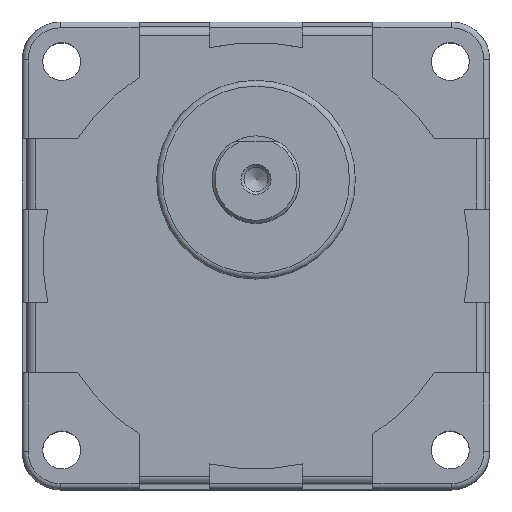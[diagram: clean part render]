
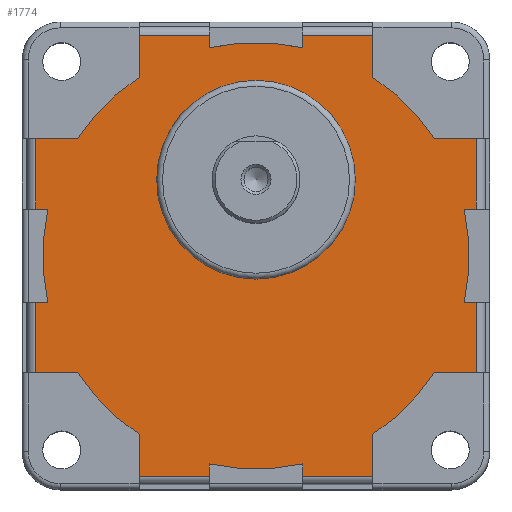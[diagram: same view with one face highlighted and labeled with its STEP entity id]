
A CAD part, top view. The second image highlights one B-rep face of the part: STEP entity #1774.
In plain terms, the highlighted planar face has unit normal (0, 0, 1).
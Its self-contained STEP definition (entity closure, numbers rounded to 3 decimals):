
#29=LINE('',#2698,#196);
#33=LINE('',#2710,#200);
#35=LINE('',#2716,#202);
#36=LINE('',#2720,#203);
#37=LINE('',#2722,#204);
#38=LINE('',#2724,#205);
#39=LINE('',#2728,#206);
#40=LINE('',#2730,#207);
#41=LINE('',#2732,#208);
#42=LINE('',#2736,#209);
#43=LINE('',#2738,#210);
#44=LINE('',#2740,#211);
#45=LINE('',#2744,#212);
#46=LINE('',#2746,#213);
#47=LINE('',#2748,#214);
#48=LINE('',#2752,#215);
#49=LINE('',#2754,#216);
#50=LINE('',#2756,#217);
#51=LINE('',#2760,#218);
#52=LINE('',#2762,#219);
#53=LINE('',#2764,#220);
#54=LINE('',#2767,#221);
#55=LINE('',#2769,#222);
#56=LINE('',#2772,#223);
#196=VECTOR('',#2150,12.);
#200=VECTOR('',#2160,12.);
#202=VECTOR('',#2166,7.167);
#203=VECTOR('',#2169,7.167);
#204=VECTOR('',#2170,12.);
#205=VECTOR('',#2171,2.088);
#206=VECTOR('',#2174,2.088);
#207=VECTOR('',#2175,12.);
#208=VECTOR('',#2176,7.167);
#209=VECTOR('',#2179,7.167);
#210=VECTOR('',#2180,12.);
#211=VECTOR('',#2181,2.088);
#212=VECTOR('',#2184,2.088);
#213=VECTOR('',#2185,12.);
#214=VECTOR('',#2186,7.167);
#215=VECTOR('',#2189,7.167);
#216=VECTOR('',#2190,12.);
#217=VECTOR('',#2191,2.088);
#218=VECTOR('',#2194,2.088);
#219=VECTOR('',#2195,12.);
#220=VECTOR('',#2196,7.167);
#221=VECTOR('',#2199,7.167);
#222=VECTOR('',#2200,2.088);
#223=VECTOR('',#2203,2.088);
#364=PLANE('',#1906);
#465=FACE_BOUND('',#615,.T.);
#495=FACE_OUTER_BOUND('',#614,.T.);
#614=EDGE_LOOP('',(#1297,#1298,#1299,#1300,#1301,#1302,#1303,#1304,#1305,
#1306,#1307,#1308,#1309,#1310,#1311,#1312,#1313,#1314,#1315,#1316,#1317,
#1318,#1319,#1320,#1321,#1322,#1323,#1324,#1325,#1326,#1327,#1328));
#615=EDGE_LOOP('',(#1329));
#727=CIRCLE('',#1897,17.);
#732=CIRCLE('',#1907,36.5);
#733=CIRCLE('',#1908,36.5);
#734=CIRCLE('',#1909,36.5);
#735=CIRCLE('',#1910,36.5);
#736=CIRCLE('',#1911,36.5);
#737=CIRCLE('',#1912,36.5);
#738=CIRCLE('',#1913,36.5);
#739=CIRCLE('',#1914,36.5);
#824=VERTEX_POINT('',#2687);
#825=VERTEX_POINT('',#2691);
#828=VERTEX_POINT('',#2696);
#832=VERTEX_POINT('',#2707);
#833=VERTEX_POINT('',#2709);
#835=VERTEX_POINT('',#2715);
#836=VERTEX_POINT('',#2717);
#837=VERTEX_POINT('',#2719);
#838=VERTEX_POINT('',#2721);
#839=VERTEX_POINT('',#2723);
#840=VERTEX_POINT('',#2725);
#841=VERTEX_POINT('',#2727);
#842=VERTEX_POINT('',#2729);
#843=VERTEX_POINT('',#2731);
#844=VERTEX_POINT('',#2733);
#845=VERTEX_POINT('',#2735);
#846=VERTEX_POINT('',#2737);
#847=VERTEX_POINT('',#2739);
#848=VERTEX_POINT('',#2741);
#849=VERTEX_POINT('',#2743);
#850=VERTEX_POINT('',#2745);
#851=VERTEX_POINT('',#2747);
#852=VERTEX_POINT('',#2749);
#853=VERTEX_POINT('',#2751);
#854=VERTEX_POINT('',#2753);
#855=VERTEX_POINT('',#2755);
#856=VERTEX_POINT('',#2757);
#857=VERTEX_POINT('',#2759);
#858=VERTEX_POINT('',#2761);
#859=VERTEX_POINT('',#2763);
#860=VERTEX_POINT('',#2765);
#861=VERTEX_POINT('',#2768);
#862=VERTEX_POINT('',#2770);
#1004=EDGE_CURVE('',#824,#824,#727,.T.);
#1008=EDGE_CURVE('',#828,#825,#29,.T.);
#1013=EDGE_CURVE('',#832,#833,#33,.T.);
#1016=EDGE_CURVE('',#828,#835,#35,.T.);
#1017=EDGE_CURVE('',#836,#835,#732,.T.);
#1018=EDGE_CURVE('',#837,#836,#36,.T.);
#1019=EDGE_CURVE('',#838,#837,#37,.T.);
#1020=EDGE_CURVE('',#839,#838,#38,.T.);
#1021=EDGE_CURVE('',#840,#839,#733,.T.);
#1022=EDGE_CURVE('',#840,#841,#39,.T.);
#1023=EDGE_CURVE('',#842,#841,#40,.T.);
#1024=EDGE_CURVE('',#842,#843,#41,.T.);
#1025=EDGE_CURVE('',#844,#843,#734,.T.);
#1026=EDGE_CURVE('',#845,#844,#42,.T.);
#1027=EDGE_CURVE('',#846,#845,#43,.T.);
#1028=EDGE_CURVE('',#847,#846,#44,.T.);
#1029=EDGE_CURVE('',#848,#847,#735,.T.);
#1030=EDGE_CURVE('',#848,#849,#45,.T.);
#1031=EDGE_CURVE('',#850,#849,#46,.T.);
#1032=EDGE_CURVE('',#850,#851,#47,.T.);
#1033=EDGE_CURVE('',#852,#851,#736,.T.);
#1034=EDGE_CURVE('',#853,#852,#48,.T.);
#1035=EDGE_CURVE('',#854,#853,#49,.T.);
#1036=EDGE_CURVE('',#855,#854,#50,.T.);
#1037=EDGE_CURVE('',#856,#855,#737,.T.);
#1038=EDGE_CURVE('',#856,#857,#51,.T.);
#1039=EDGE_CURVE('',#858,#857,#52,.T.);
#1040=EDGE_CURVE('',#858,#859,#53,.T.);
#1041=EDGE_CURVE('',#860,#859,#738,.T.);
#1042=EDGE_CURVE('',#833,#860,#54,.T.);
#1043=EDGE_CURVE('',#861,#832,#55,.T.);
#1044=EDGE_CURVE('',#862,#861,#739,.T.);
#1045=EDGE_CURVE('',#862,#825,#56,.T.);
#1297=ORIENTED_EDGE('',*,*,#1008,.F.);
#1298=ORIENTED_EDGE('',*,*,#1016,.T.);
#1299=ORIENTED_EDGE('',*,*,#1017,.F.);
#1300=ORIENTED_EDGE('',*,*,#1018,.F.);
#1301=ORIENTED_EDGE('',*,*,#1019,.F.);
#1302=ORIENTED_EDGE('',*,*,#1020,.F.);
#1303=ORIENTED_EDGE('',*,*,#1021,.F.);
#1304=ORIENTED_EDGE('',*,*,#1022,.T.);
#1305=ORIENTED_EDGE('',*,*,#1023,.F.);
#1306=ORIENTED_EDGE('',*,*,#1024,.T.);
#1307=ORIENTED_EDGE('',*,*,#1025,.F.);
#1308=ORIENTED_EDGE('',*,*,#1026,.F.);
#1309=ORIENTED_EDGE('',*,*,#1027,.F.);
#1310=ORIENTED_EDGE('',*,*,#1028,.F.);
#1311=ORIENTED_EDGE('',*,*,#1029,.F.);
#1312=ORIENTED_EDGE('',*,*,#1030,.T.);
#1313=ORIENTED_EDGE('',*,*,#1031,.F.);
#1314=ORIENTED_EDGE('',*,*,#1032,.T.);
#1315=ORIENTED_EDGE('',*,*,#1033,.F.);
#1316=ORIENTED_EDGE('',*,*,#1034,.F.);
#1317=ORIENTED_EDGE('',*,*,#1035,.F.);
#1318=ORIENTED_EDGE('',*,*,#1036,.F.);
#1319=ORIENTED_EDGE('',*,*,#1037,.F.);
#1320=ORIENTED_EDGE('',*,*,#1038,.T.);
#1321=ORIENTED_EDGE('',*,*,#1039,.F.);
#1322=ORIENTED_EDGE('',*,*,#1040,.T.);
#1323=ORIENTED_EDGE('',*,*,#1041,.F.);
#1324=ORIENTED_EDGE('',*,*,#1042,.F.);
#1325=ORIENTED_EDGE('',*,*,#1013,.F.);
#1326=ORIENTED_EDGE('',*,*,#1043,.F.);
#1327=ORIENTED_EDGE('',*,*,#1044,.F.);
#1328=ORIENTED_EDGE('',*,*,#1045,.T.);
#1329=ORIENTED_EDGE('',*,*,#1004,.F.);
#1774=ADVANCED_FACE('',(#495,#465),#364,.T.);
#1897=AXIS2_PLACEMENT_3D('',#2688,#2139,#2140);
#1906=AXIS2_PLACEMENT_3D('',#2714,#2164,#2165);
#1907=AXIS2_PLACEMENT_3D('',#2718,#2167,#2168);
#1908=AXIS2_PLACEMENT_3D('',#2726,#2172,#2173);
#1909=AXIS2_PLACEMENT_3D('',#2734,#2177,#2178);
#1910=AXIS2_PLACEMENT_3D('',#2742,#2182,#2183);
#1911=AXIS2_PLACEMENT_3D('',#2750,#2187,#2188);
#1912=AXIS2_PLACEMENT_3D('',#2758,#2192,#2193);
#1913=AXIS2_PLACEMENT_3D('',#2766,#2197,#2198);
#1914=AXIS2_PLACEMENT_3D('',#2771,#2201,#2202);
#2139=DIRECTION('center_axis',(0.,0.,1.));
#2140=DIRECTION('ref_axis',(-1.,0.,0.));
#2150=DIRECTION('',(0.,-1.,0.));
#2160=DIRECTION('',(0.,-1.,0.));
#2164=DIRECTION('center_axis',(0.,0.,1.));
#2165=DIRECTION('ref_axis',(1.,0.,0.));
#2166=DIRECTION('',(-1.,0.,0.));
#2167=DIRECTION('center_axis',(0.,0.,-1.));
#2168=DIRECTION('ref_axis',(-1.,0.,0.));
#2169=DIRECTION('',(0.,-1.,0.));
#2170=DIRECTION('',(1.,0.,0.));
#2171=DIRECTION('',(0.,1.,0.));
#2172=DIRECTION('center_axis',(0.,0.,-1.));
#2173=DIRECTION('ref_axis',(-1.,0.,0.));
#2174=DIRECTION('',(0.,1.,0.));
#2175=DIRECTION('',(1.,0.,0.));
#2176=DIRECTION('',(0.,-1.,0.));
#2177=DIRECTION('center_axis',(0.,0.,-1.));
#2178=DIRECTION('ref_axis',(-1.,0.,0.));
#2179=DIRECTION('',(1.,0.,0.));
#2180=DIRECTION('',(0.,1.,0.));
#2181=DIRECTION('',(-1.,0.,0.));
#2182=DIRECTION('center_axis',(0.,0.,-1.));
#2183=DIRECTION('ref_axis',(-1.,0.,0.));
#2184=DIRECTION('',(-1.,0.,0.));
#2185=DIRECTION('',(0.,1.,0.));
#2186=DIRECTION('',(1.,0.,0.));
#2187=DIRECTION('center_axis',(0.,0.,-1.));
#2188=DIRECTION('ref_axis',(-1.,0.,0.));
#2189=DIRECTION('',(0.,1.,0.));
#2190=DIRECTION('',(-1.,0.,0.));
#2191=DIRECTION('',(0.,-1.,0.));
#2192=DIRECTION('center_axis',(0.,0.,-1.));
#2193=DIRECTION('ref_axis',(-1.,0.,0.));
#2194=DIRECTION('',(0.,-1.,0.));
#2195=DIRECTION('',(-1.,0.,0.));
#2196=DIRECTION('',(0.,1.,0.));
#2197=DIRECTION('center_axis',(0.,0.,-1.));
#2198=DIRECTION('ref_axis',(-1.,0.,0.));
#2199=DIRECTION('',(-1.,0.,0.));
#2200=DIRECTION('',(1.,0.,0.));
#2201=DIRECTION('center_axis',(0.,0.,-1.));
#2202=DIRECTION('ref_axis',(-1.,0.,0.));
#2203=DIRECTION('',(1.,0.,0.));
#2687=CARTESIAN_POINT('',(17.,13.,45.2));
#2688=CARTESIAN_POINT('Origin',(0.,13.,45.2));
#2691=CARTESIAN_POINT('',(37.7,8.,45.2));
#2696=CARTESIAN_POINT('',(37.7,20.,45.2));
#2698=CARTESIAN_POINT('',(37.7,10.,45.2));
#2707=CARTESIAN_POINT('',(37.7,-8.,45.2));
#2709=CARTESIAN_POINT('',(37.7,-20.,45.2));
#2710=CARTESIAN_POINT('',(37.7,-10.,45.2));
#2714=CARTESIAN_POINT('Origin',(0.,0.,45.2));
#2715=CARTESIAN_POINT('',(30.533,20.,45.2));
#2716=CARTESIAN_POINT('',(30.533,20.,45.2));
#2717=CARTESIAN_POINT('',(20.,30.533,45.2));
#2718=CARTESIAN_POINT('Origin',(0.,0.,45.2));
#2719=CARTESIAN_POINT('',(20.,37.7,45.2));
#2720=CARTESIAN_POINT('',(20.,30.533,45.2));
#2721=CARTESIAN_POINT('',(8.,37.7,45.2));
#2722=CARTESIAN_POINT('',(10.,37.7,45.2));
#2723=CARTESIAN_POINT('',(8.,35.612,45.2));
#2724=CARTESIAN_POINT('',(8.,40.,45.2));
#2725=CARTESIAN_POINT('',(-8.,35.612,45.2));
#2726=CARTESIAN_POINT('Origin',(0.,0.,45.2));
#2727=CARTESIAN_POINT('',(-8.,37.7,45.2));
#2728=CARTESIAN_POINT('',(-8.,40.,45.2));
#2729=CARTESIAN_POINT('',(-20.,37.7,45.2));
#2730=CARTESIAN_POINT('',(-10.,37.7,45.2));
#2731=CARTESIAN_POINT('',(-20.,30.533,45.2));
#2732=CARTESIAN_POINT('',(-20.,30.533,45.2));
#2733=CARTESIAN_POINT('',(-30.533,20.,45.2));
#2734=CARTESIAN_POINT('Origin',(0.,0.,45.2));
#2735=CARTESIAN_POINT('',(-37.7,20.,45.2));
#2736=CARTESIAN_POINT('',(-30.533,20.,45.2));
#2737=CARTESIAN_POINT('',(-37.7,8.,45.2));
#2738=CARTESIAN_POINT('',(-37.7,10.,45.2));
#2739=CARTESIAN_POINT('',(-35.612,8.,45.2));
#2740=CARTESIAN_POINT('',(-40.,8.,45.2));
#2741=CARTESIAN_POINT('',(-35.612,-8.,45.2));
#2742=CARTESIAN_POINT('Origin',(0.,0.,45.2));
#2743=CARTESIAN_POINT('',(-37.7,-8.,45.2));
#2744=CARTESIAN_POINT('',(-40.,-8.,45.2));
#2745=CARTESIAN_POINT('',(-37.7,-20.,45.2));
#2746=CARTESIAN_POINT('',(-37.7,-10.,45.2));
#2747=CARTESIAN_POINT('',(-30.533,-20.,45.2));
#2748=CARTESIAN_POINT('',(-30.533,-20.,45.2));
#2749=CARTESIAN_POINT('',(-20.,-30.533,45.2));
#2750=CARTESIAN_POINT('Origin',(0.,0.,45.2));
#2751=CARTESIAN_POINT('',(-20.,-37.7,45.2));
#2752=CARTESIAN_POINT('',(-20.,-30.533,45.2));
#2753=CARTESIAN_POINT('',(-8.,-37.7,45.2));
#2754=CARTESIAN_POINT('',(-10.,-37.7,45.2));
#2755=CARTESIAN_POINT('',(-8.,-35.612,45.2));
#2756=CARTESIAN_POINT('',(-8.,-40.,45.2));
#2757=CARTESIAN_POINT('',(8.,-35.612,45.2));
#2758=CARTESIAN_POINT('Origin',(0.,0.,45.2));
#2759=CARTESIAN_POINT('',(8.,-37.7,45.2));
#2760=CARTESIAN_POINT('',(8.,-40.,45.2));
#2761=CARTESIAN_POINT('',(20.,-37.7,45.2));
#2762=CARTESIAN_POINT('',(10.,-37.7,45.2));
#2763=CARTESIAN_POINT('',(20.,-30.533,45.2));
#2764=CARTESIAN_POINT('',(20.,-30.533,45.2));
#2765=CARTESIAN_POINT('',(30.533,-20.,45.2));
#2766=CARTESIAN_POINT('Origin',(0.,0.,45.2));
#2767=CARTESIAN_POINT('',(30.533,-20.,45.2));
#2768=CARTESIAN_POINT('',(35.612,-8.,45.2));
#2769=CARTESIAN_POINT('',(40.,-8.,45.2));
#2770=CARTESIAN_POINT('',(35.612,8.,45.2));
#2771=CARTESIAN_POINT('Origin',(0.,0.,45.2));
#2772=CARTESIAN_POINT('',(40.,8.,45.2));
